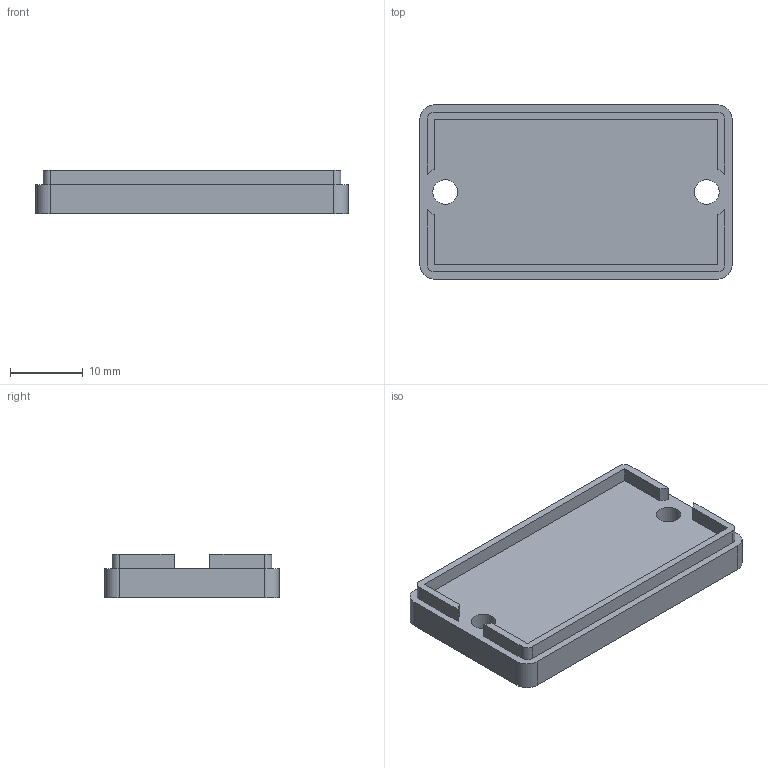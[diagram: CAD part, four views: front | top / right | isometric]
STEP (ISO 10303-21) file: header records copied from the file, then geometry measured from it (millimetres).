
FILE_DESCRIPTION(('FreeCAD Model'),'2;1');
FILE_NAME('Open CASCADE Shape Model','2026-09-29T21:45:23',('Author'),( ''),'Open CASCADE STEP processor 7.8','FreeCAD','Unknown');
FILE_SCHEMA(('AUTOMOTIVE_DESIGN { 1 0 10303 214 1 1 1 1 }'));
Length unit declared in the file: millimetre
Products named in the file (1): usb_cover
Bounding box: 43 x 24 x 6 mm (x, y, z)
Volume: 3911.7 mm3; surface area: 3283.2 mm2
Topology: 1 solids, 1 shells, 48 faces, 126 edges, 84 vertices
Faces by surface type: plane 30, cylinder 18
Full cylindrical faces by diameter (mm): 3.4 x2
Entity records: 1504 total; most frequent: DIRECTION 260, CARTESIAN_POINT 259, ORIENTED_EDGE 252, EDGE_CURVE 126, LINE 90, VECTOR 90, AXIS2_PLACEMENT_3D 85, VERTEX_POINT 84
